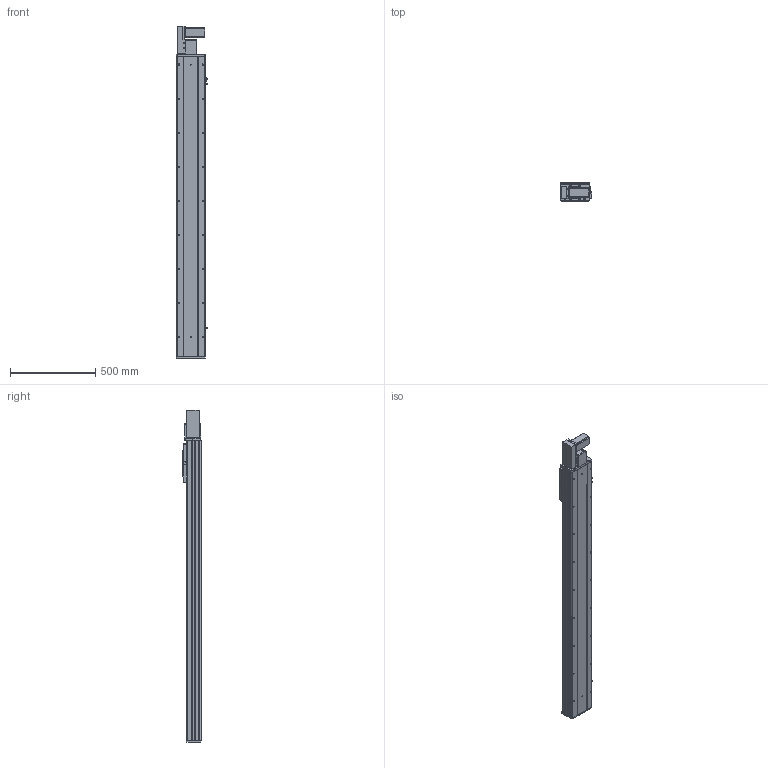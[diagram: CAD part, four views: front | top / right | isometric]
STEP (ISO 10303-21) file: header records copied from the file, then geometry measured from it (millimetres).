
FILE_DESCRIPTION (( 'STEP AP203' ), '1' );
FILE_NAME ('Y170CB-D105-S1450-BL-P400W.STEP', '2020-02-20T01:25:28', ( '微软用户' ), ( '微软中国' ), 'SwSTEP 2.0', 'SolidWorks 2017', '' );
FILE_SCHEMA (( 'CONFIG_CONTROL_DESIGN' ));
Length unit declared in the file: millimetre
Products named in the file (18): 70B喘謫眊----; 70CB-耜裔啣-; Y1埴倛裔; 70C--詩湍揤踡え-; B-源倛裔啣; Y170CB-D105-S1450-BL-P400W; 70CB--耜裔; 17B-耜蚾蟀諉啣----; 70C-雄赽釱-奻-; 0B-萇儂楊擘啣; 0C--雄赽釱俋欶-170; san松下电机400不带刹车----; 70CB-詩湍--; Y70俋欶BR----; Y100-135俋离換覜ん--; 70CB-掛极-; Y170CB-陔俋离換覜結え---; --70CB --喘謫眊楊擘啣-
Assembly tree (21 placements, depth 2):
  Y170CB-D105-S1450-BL-P400W
    B-源倛裔啣
    17B-耜蚾蟀諉啣----
    0B-萇儂楊擘啣
    san松下电机400不带刹车----
    Y70俋欶BR----
    70CB-掛极-
    --70CB --喘謫眊楊擘啣-
    70CB-耜裔啣-  x2
    70C--詩湍揤踡え-  x2
    70CB--耜裔
    70C-雄赽釱-奻-
    0C--雄赽釱俋欶-170
    70CB-詩湍--
    Y100-135俋离換覜ん--  x3
    Y170CB-陔俋离換覜結え---
    70B喘謫眊----
    Y1埴倛裔
Bounding box: 183.5 x 107 x 1947 mm (x, y, z)
Volume: 8309768.2 mm3; surface area: 2986185.7 mm2
Topology: 21 solids, 21 shells, 1023 faces, 2741 edges, 1818 vertices
Faces by surface type: cylinder 535, plane 464, cone 24
Entity records: 32612 total; most frequent: CARTESIAN_POINT 5976, DIRECTION 5302, ORIENTED_EDGE 4964, EDGE_CURVE 2482, AXIS2_PLACEMENT_3D 1944, VERTEX_POINT 1648, VECTOR 1414, LINE 1414
